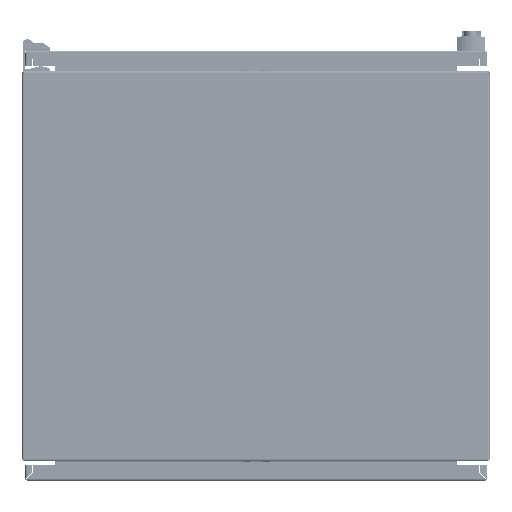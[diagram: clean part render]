
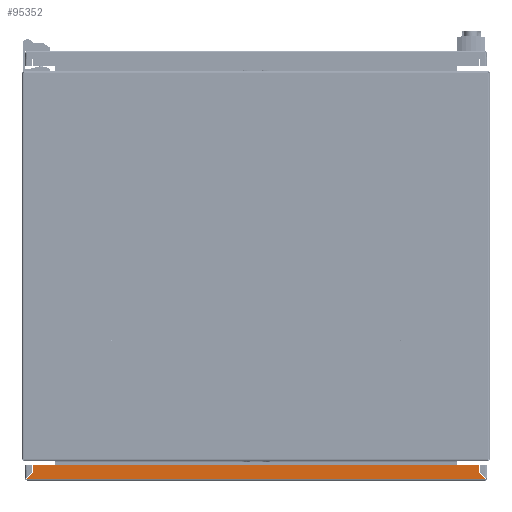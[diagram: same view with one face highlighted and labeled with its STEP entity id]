
A CAD part, front view. The second image highlights one B-rep face of the part: STEP entity #95352.
In plain terms, the highlighted planar face has unit normal (0, -1, 0).
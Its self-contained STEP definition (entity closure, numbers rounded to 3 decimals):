
#94874 = EDGE_CURVE ( 'NONE', #94894, #94899, #302262, .T. ) ;
#94894 = VERTEX_POINT ( 'NONE', #302356 ) ;
#94899 = VERTEX_POINT ( 'NONE', #302353 ) ;
#95141 = EDGE_CURVE ( 'NONE', #94899, #95146, #303118, .T. ) ;
#95146 = VERTEX_POINT ( 'NONE', #303111 ) ;
#95170 = ORIENTED_EDGE ( 'NONE', *, *, #95192, .T. ) ;
#95192 = EDGE_CURVE ( 'NONE', #95146, #95780, #303258, .T. ) ;
#95352 = ADVANCED_FACE ( 'NONE', ( #305167 ), #305117, .F. ) ;
#95368 = EDGE_LOOP ( 'NONE', ( #95383, #95443, #95469, #95170, #95791, #95495 ) ) ;
#95383 = ORIENTED_EDGE ( 'NONE', *, *, #95413, .F. ) ;
#95413 = EDGE_CURVE ( 'NONE', #94894, #95423, #305391, .T. ) ;
#95423 = VERTEX_POINT ( 'NONE', #305383 ) ;
#95443 = ORIENTED_EDGE ( 'NONE', *, *, #94874, .T. ) ;
#95469 = ORIENTED_EDGE ( 'NONE', *, *, #95141, .T. ) ;
#95476 = VERTEX_POINT ( 'NONE', #305464 ) ;
#95495 = ORIENTED_EDGE ( 'NONE', *, *, #95511, .F. ) ;
#95511 = EDGE_CURVE ( 'NONE', #95423, #95476, #306172, .T. ) ;
#95780 = VERTEX_POINT ( 'NONE', #307025 ) ;
#95791 = ORIENTED_EDGE ( 'NONE', *, *, #95805, .F. ) ;
#95805 = EDGE_CURVE ( 'NONE', #95476, #95780, #307169, .T. ) ;
#302254 = DIRECTION ( 'NONE',  ( -1., 0., 0. ) ) ;
#302257 = VECTOR ( 'NONE', #302254, 1000. ) ;
#302259 = CARTESIAN_POINT ( 'NONE',  ( 10181.15, 21.5, -255. ) ) ;
#302262 = LINE ( 'NONE', #302259, #302257 ) ;
#302353 = CARTESIAN_POINT ( 'NONE',  ( -286.083, 21.5, -255. ) ) ;
#302356 = CARTESIAN_POINT ( 'NONE',  ( 286.383, 21.5, -255. ) ) ;
#303111 = CARTESIAN_POINT ( 'NONE',  ( -286.083, 21.5, -264.81 ) ) ;
#303114 = DIRECTION ( 'NONE',  ( 0., 0., -1. ) ) ;
#303115 = VECTOR ( 'NONE', #303114, 1000. ) ;
#303116 = CARTESIAN_POINT ( 'NONE',  ( -286.083, 21.5, -255. ) ) ;
#303118 = LINE ( 'NONE', #303116, #303115 ) ;
#303249 = DIRECTION ( 'NONE',  ( -0.707, 0., -0.707 ) ) ;
#303250 = VECTOR ( 'NONE', #303249, 1000. ) ;
#303251 = CARTESIAN_POINT ( 'NONE',  ( -286.083, 21.5, -264.81 ) ) ;
#303258 = LINE ( 'NONE', #303251, #303250 ) ;
#305110 = AXIS2_PLACEMENT_3D ( 'NONE', #305284, #305281, #305278 ) ;
#305117 = PLANE ( 'NONE',  #305110 ) ;
#305167 = FACE_OUTER_BOUND ( 'NONE', #95368, .T. ) ;
#305278 = DIRECTION ( 'NONE',  ( 0., 0., -1. ) ) ;
#305281 = DIRECTION ( 'NONE',  ( 0., 1., 0. ) ) ;
#305284 = CARTESIAN_POINT ( 'NONE',  ( 10181.15, 21.5, -255. ) ) ;
#305383 = CARTESIAN_POINT ( 'NONE',  ( 286.383, 21.5, -264.81 ) ) ;
#305388 = DIRECTION ( 'NONE',  ( 0., 0., -1. ) ) ;
#305389 = VECTOR ( 'NONE', #305388, 1000. ) ;
#305390 = CARTESIAN_POINT ( 'NONE',  ( 286.383, 21.5, -255. ) ) ;
#305391 = LINE ( 'NONE', #305390, #305389 ) ;
#305464 = CARTESIAN_POINT ( 'NONE',  ( 294.473, 21.5, -272.9 ) ) ;
#306169 = DIRECTION ( 'NONE',  ( 0.707, 0., -0.707 ) ) ;
#306170 = VECTOR ( 'NONE', #306169, 1000. ) ;
#306171 = CARTESIAN_POINT ( 'NONE',  ( 286.383, 21.5, -264.81 ) ) ;
#306172 = LINE ( 'NONE', #306171, #306170 ) ;
#307025 = CARTESIAN_POINT ( 'NONE',  ( -294.173, 21.5, -272.9 ) ) ;
#307166 = DIRECTION ( 'NONE',  ( -1., 0., 0. ) ) ;
#307167 = VECTOR ( 'NONE', #307166, 1000. ) ;
#307168 = CARTESIAN_POINT ( 'NONE',  ( 10181.15, 21.5, -272.9 ) ) ;
#307169 = LINE ( 'NONE', #307168, #307167 ) ;
